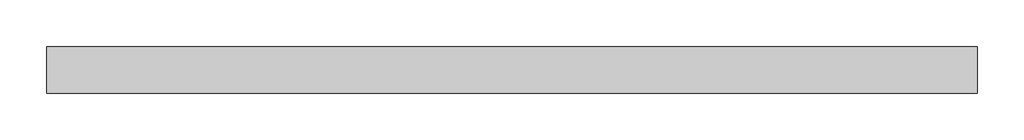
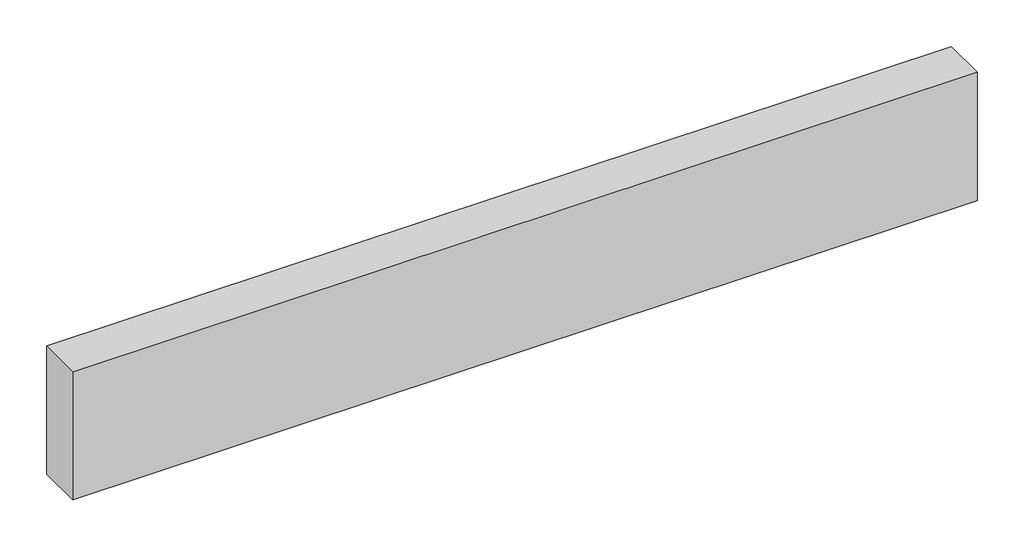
# One storey: 1 beam.
"""IFC4 building model written with IfcOpenShell, lengths in millimetres."""

from ifc_helpers import new_model, si_unit, origin, place, context, project, spatial, transform, mapped, element, save
from components import kl8_200x600_e6e3d9d6

model = new_model("IFC4")

# Units and contexts
model_context = context("Model", 3, world=origin())
ifc_project = project(units=[si_unit("LENGTHUNIT", "METRE", prefix="MILLI")], contexts=[model_context])

# Site, building, storey
site = spatial("IfcSite", under=ifc_project)
building = spatial("IfcBuilding", under=site)
storey = spatial("IfcBuildingStorey", under=building, Name="标高 1", Elevation=0.0)

# Beam
placement = place(None, origin())
kl8_200x600_shape = kl8_200x600_e6e3d9d6(model_context)
element("IfcBeam", 1, ObjectType="混凝土 - 矩形梁 : KL8 200X600", at=placement, inside=storey, context=model_context, shape_type="MappedRepresentation", body=[
    mapped(kl8_200x600_shape, transform((-8024.3751409, 5378.7618989, -300.0), x_axis=(1.0, 0.0, 0.0), y_axis=(0.0, 1.0, 0.0), z_axis=(0.0, 0.0, 1.0))),
])

save(model, "model.ifc")
